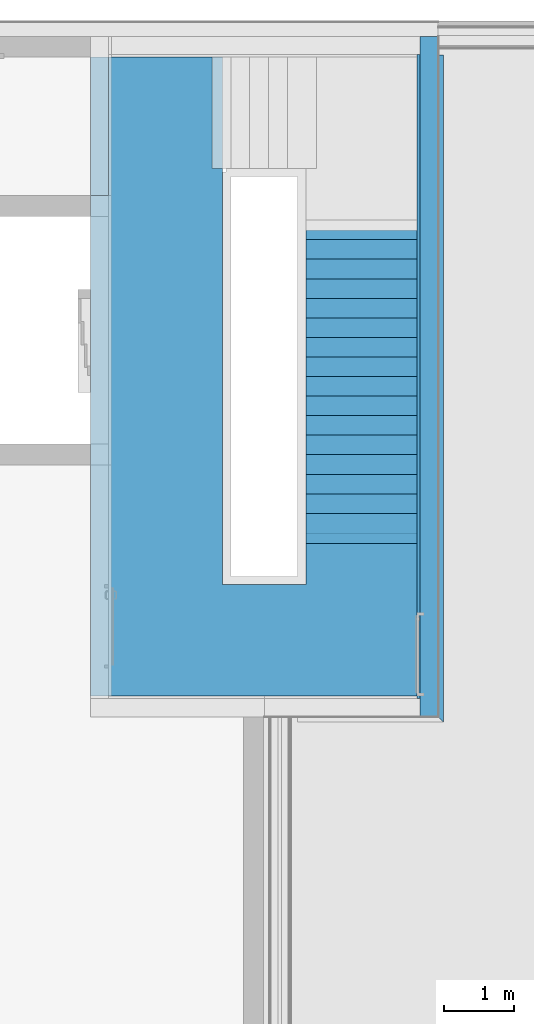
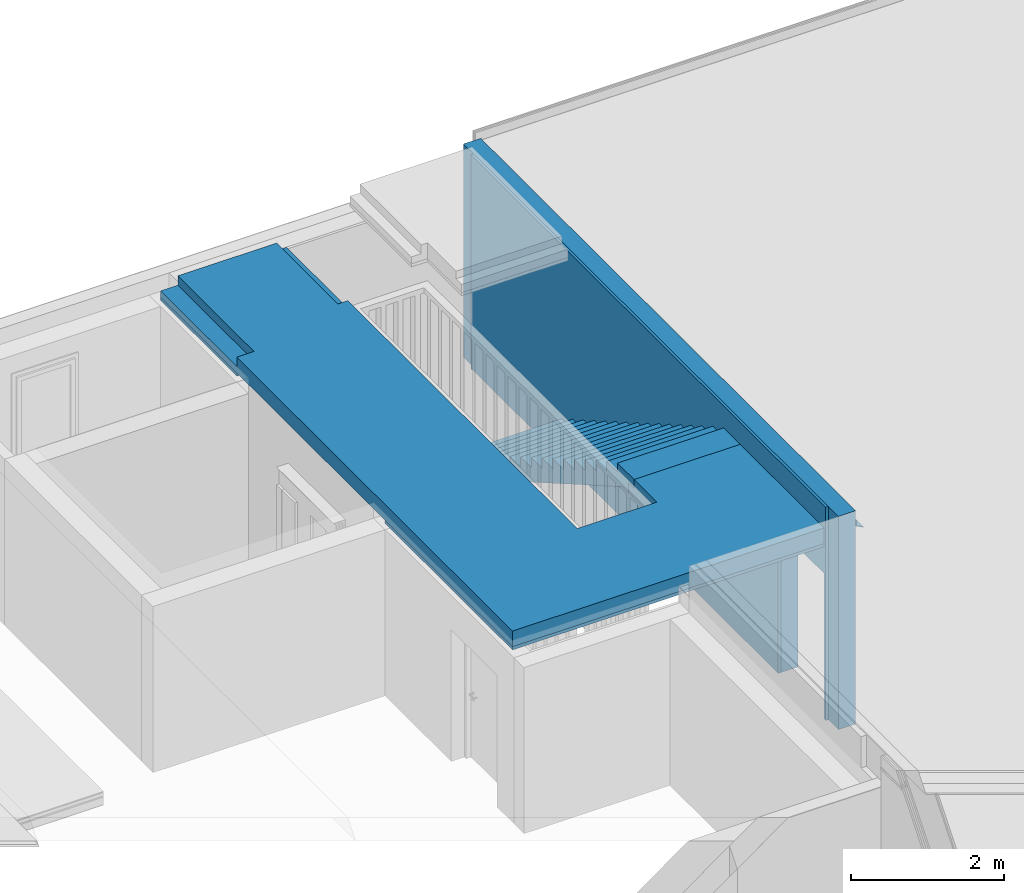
# One storey, part 15 of 20: 5 building element parts, 1 discrete accessory, 1 opening, 3 elements without a shape of their own.
"""IFC4 building model written with IfcOpenShell, lengths in millimetres."""

from ifc_helpers import new_model, entity, si_unit, converted_unit, derived_unit, direction, frame, origin_with_axes, place, context, subcontext, project, spatial, polygons, material, constituent, constituent_set, type_object, element, aggregate, save


model = new_model("IFC4")

# Units and contexts
model_context = context("Model", 3, precision=0.01, world=origin_with_axes(), true_north=direction((0.0, 1.0)))
body_context = subcontext(model_context, "Body", "Model", "MODEL_VIEW")
ifc_project = project(units=[si_unit("LENGTHUNIT", "METRE", prefix="MILLI"), si_unit("AREAUNIT", "SQUARE_METRE"), si_unit("VOLUMEUNIT", "CUBIC_METRE"), converted_unit("PLANEANGLEUNIT", "DEGREE", entity("IfcPlaneAngleMeasure", 0.0174532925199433), si_unit("PLANEANGLEUNIT", "RADIAN"), dimensions=[0, 0, 0, 0, 0, 0, 0]), converted_unit("TIMEUNIT", "Year", entity("IfcTimeMeasure", 31557600.0), si_unit("TIMEUNIT", "SECOND"), dimensions=[0, 0, 1, 0, 0, 0, 0]), si_unit("MASSUNIT", "GRAM", prefix="KILO"), si_unit("THERMODYNAMICTEMPERATUREUNIT", "DEGREE_CELSIUS"), si_unit("LUMINOUSINTENSITYUNIT", "LUMEN"), si_unit("ENERGYUNIT", "JOULE", prefix="MEGA"), derived_unit("THERMALCONDUCTANCEUNIT", [(si_unit("POWERUNIT", "WATT"), 1), (si_unit("LENGTHUNIT", "METRE"), -1), (si_unit("THERMODYNAMICTEMPERATUREUNIT", "KELVIN"), -1)]), derived_unit("SPECIFICHEATCAPACITYUNIT", [(si_unit("ENERGYUNIT", "JOULE"), 1), (si_unit("MASSUNIT", "GRAM", prefix="KILO"), -1), (si_unit("THERMODYNAMICTEMPERATUREUNIT", "KELVIN"), -1)]), derived_unit("MASSDENSITYUNIT", [(si_unit("MASSUNIT", "GRAM", prefix="KILO"), 1), (si_unit("VOLUMEUNIT", "CUBIC_METRE"), -1)])], contexts=[model_context])

# Site, building, storey
site_placement = place(None, origin_with_axes())
site = spatial("IfcSite", under=ifc_project, at=site_placement, Name="Gelände", CompositionType="ELEMENT")
building_placement = place(site_placement, origin_with_axes())
building = spatial("IfcBuilding", under=site, at=building_placement, Name="Gebäude", CompositionType="ELEMENT")
storey_placement = place(building_placement, frame((0.0, 0.0, 5.198845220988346e-05), z_axis=(0.0, 0.0, 1.0), x_axis=(1.0, 0.0, 0.0)))
storey = spatial("IfcBuildingStorey", under=building, at=storey_placement, Name="EG", CompositionType="ELEMENT", Elevation=0.0)

# Discrete accessory
ifc_material_1 = material(Name="Stahl")
ifc_constituent = constituent(ifc_material_1, Name="Stahl")
ifc_constituent_set = constituent_set(constituents=[ifc_constituent], Name="Träger Typ 01- L90X75X9")
discrete_accessory_type = type_object("IfcDiscreteAccessoryType", Name="Träger Typ 01- L90X75X9 75 x 90", PredefinedType="NOTDEFINED")
discrete_accessory_placement = place(storey_placement, frame((20428.9974447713, 37468.59728131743, 3161.999948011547), z_axis=(0.0, 0.0, 1.0), x_axis=(-1.0, 0.0, 0.0)))
element("IfcDiscreteAccessory", 1, at=discrete_accessory_placement, inside=storey, type_object=discrete_accessory_type, material=ifc_constituent_set, Name="Unterzug-026", PredefinedType="NOTDEFINED", context=body_context, shape_type="Tessellation", body=[
    polygons([(0.0, 0.0, 80.99999999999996), (0.0, 9520.99999999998, 80.99999999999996), (-9.000000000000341, 9529.99999999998, 80.99999999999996), (-9.000000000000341, 0.0, 80.99999999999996), (0.0, 0.0, -8.999999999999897), (0.0, 9520.99999999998, -8.999999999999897), (-75.00000000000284, 9595.999999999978, -8.999999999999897), (-75.00000000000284, 9595.999999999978, 0.0), (-9.000000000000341, 9529.99999999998, 0.0), (-9.000000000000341, 0.0, 0.0), (-74.99999999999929, 0.0, 0.0), (-74.99999999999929, 0.0, -8.999999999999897)], [[[1, 2, 3, 4]], [[5, 6, 2, 1]], [[3, 2, 6, 7, 8, 9]], [[4, 3, 9, 10]], [[5, 1, 4, 10, 11, 12]], [[12, 7, 6, 5]], [[11, 8, 7, 12]], [[10, 9, 8, 11]]], closed=True),
])

# Wall, opening, building element parts
wall_type = type_object("IfcWallType", Name="Innenwand Typ 10 310", PredefinedType="NOTDEFINED")
wall_placement = place(storey_placement, frame((20128.99744477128, 28247.59728131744, 0.0), z_axis=(0.0, 0.0, 1.0), x_axis=(0.0, 1.0, 0.0)))
wall = element("IfcWall", 2, at=wall_placement, inside=storey, type_object=wall_type, Name="Wand-014", PredefinedType="NOTDEFINED")
opening_placement = place(wall_placement, frame((599.9999999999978, 0.0, 220.0), z_axis=(0.0, 0.0, 1.0), x_axis=(1.0, 0.0, 0.0)))
element("IfcOpeningElement", 3, at=opening_placement, cuts=wall, Name="Tür-010", context=body_context, identifier="Reference", shape_type="Tessellation", body=[
    polygons([(-600.0000000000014, -310.9999999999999, 2100.0), (-600.0000000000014, -310.9999999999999, -220.0), (600.0000000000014, -310.9999999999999, -220.0), (600.0000000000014, -310.9999999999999, 2100.0), (-600.0000000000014, 1.000000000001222, 2100.0), (-600.0000000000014, 1.000000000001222, -220.0), (600.0000000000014, 1.000000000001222, -220.0), (600.0000000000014, 1.000000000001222, 2100.0)], [[[1, 2, 3, 4]], [[5, 6, 2, 1]], [[6, 7, 3, 2]], [[7, 8, 4, 3]], [[8, 5, 1, 4]], [[7, 6, 5, 8]]], closed=True),
])
ifc_material_2 = material(Name="Sichtbeton")
building_element_part_1_placement = place(wall_placement, origin_with_axes())
building_element_part_1 = element("IfcBuildingElementPart", 4, at=building_element_part_1_placement, material=ifc_material_2, Name="Sichtbeton", PredefinedType="NOTDEFINED", context=body_context, shape_type="Tessellation", body=[
    polygons([(0.0, -39.99999999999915, 219.9999480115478), (0.0, -39.99999999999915, 2320.0), (1199.999999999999, -39.99999999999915, 2320.0), (1199.999999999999, -39.99999999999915, 219.9999480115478), (1199.999999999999, -39.99999999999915, -5.198845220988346e-05), (9229.999999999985, -39.99999999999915, 0.0), (9229.999999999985, -39.99999999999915, 3399.999948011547), (-39.99999999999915, -39.99999999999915, 3399.999948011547), (-39.99999999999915, -39.99999999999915, 0.0), (0.0, -39.99999999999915, -5.198845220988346e-05), (0.0, 7.04625691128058e-06, 219.9999480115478), (0.0, 0.0, 2320.0), (1199.999999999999, 0.0, 2320.0), (1199.999999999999, 7.046253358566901e-06, 219.9999480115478), (1199.999999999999, 7.046253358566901e-06, -5.198845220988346e-05), (9229.999999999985, 0.0, 0.0), (9229.999999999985, 0.0, 3399.999948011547), (-39.99999999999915, 0.0, 3399.999948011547), (-39.99999999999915, 0.0, 0.0), (0.0, 7.04625691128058e-06, -5.198845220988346e-05)], [[[1, 2, 3, 4, 5, 6, 7, 8, 9, 10]], [[2, 1, 11, 12]], [[3, 2, 12, 13]], [[4, 3, 13, 14]], [[4, 14, 15, 5]], [[5, 15, 16, 6]], [[16, 17, 7, 6]], [[17, 18, 8, 7]], [[9, 8, 18, 19]], [[20, 10, 9, 19]], [[11, 1, 10, 20]], [[12, 11, 20, 19, 18, 17, 16, 15, 14, 13]]], closed=True),
])
ifc_material_3 = material(Name="Beton bewehrt")
building_element_part_2_placement = place(wall_placement, origin_with_axes())
building_element_part_2 = element("IfcBuildingElementPart", 5, at=building_element_part_2_placement, material=ifc_material_3, Name="Beton bewehrt", PredefinedType="NOTDEFINED", context=body_context, shape_type="Tessellation", body=[
    polygons([(0.0, -300.0000000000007, 219.9999480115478), (0.0, -300.0000000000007, 2320.0), (1199.999999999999, -300.0000000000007, 2320.0), (1199.999999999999, -300.0000000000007, 219.9999480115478), (1199.999999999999, -300.0000000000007, -5.198845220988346e-05), (9489.999999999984, -300.0000000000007, 0.0), (9489.999999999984, -300.0000000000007, 3399.999948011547), (-300.0000000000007, -300.0000000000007, 3399.999948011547), (-300.0000000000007, -300.0000000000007, 0.0), (0.0, -300.0000000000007, -5.198845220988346e-05), (0.0, -39.99999999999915, 219.9999480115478), (0.0, -39.99999999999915, 2320.0), (1199.999999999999, -39.99999999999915, 2320.0), (1199.999999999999, -39.99999999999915, 219.9999480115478), (1199.999999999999, -39.99999999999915, -5.198845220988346e-05), (9489.999999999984, -39.99999999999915, 0.0), (9489.999999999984, -39.99999999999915, 3399.999948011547), (-300.0000000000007, -39.99999999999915, 3399.999948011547), (-300.0000000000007, -39.99999999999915, 0.0), (0.0, -39.99999999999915, -5.198845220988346e-05)], [[[1, 2, 3, 4, 5, 6, 7, 8, 9, 10]], [[2, 1, 11, 12]], [[3, 2, 12, 13]], [[4, 3, 13, 14]], [[4, 14, 15, 5]], [[5, 15, 16, 6]], [[6, 16, 17, 7]], [[17, 18, 8, 7]], [[9, 8, 18, 19]], [[20, 10, 9, 19]], [[11, 1, 10, 20]], [[12, 11, 20, 19, 18, 17, 16, 15, 14, 13]]], closed=True),
])
aggregate(wall, [building_element_part_1, building_element_part_2])

# Stair, building element part
stair_type = type_object("IfcStairType", Name="Treppentyp", PredefinedType="NOTDEFINED")
stair_placement = place(storey_placement, frame((20128.99743772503, 35092.59728131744, 639.9999999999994), z_axis=(0.0, 0.0, 1.0), x_axis=(1.0, 0.0, 0.0)))
stair = element("IfcStair", 6, at=stair_placement, inside=storey, type_object=stair_type, Name="Treppe-001", PredefinedType="NOTDEFINED")
building_element_part_3_placement = place(stair_placement, origin_with_axes())
building_element_part_3 = element("IfcBuildingElementPart", 7, at=building_element_part_3_placement, material=ifc_material_3, Name="Beton bewehrt", PredefinedType="NOTDEFINED", context=body_context, shape_type="Tessellation", body=[
    polygons([(0.0, -4500.000000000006, 2269.999948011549), (0.0, -4500.000000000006, 2109.999948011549), (0.0, -4345.147909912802, 2109.999948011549), (0.0, -4312.500000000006, 2091.194752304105), (0.0, -4218.750000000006, 2037.194753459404), (0.0, -4125.000000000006, 1983.194754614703), (0.0, -4031.250000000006, 1929.194755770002), (0.0, -3937.500000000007, 1875.194756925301), (0.0, -3843.750000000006, 1821.1947580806), (0.0, -3750.000000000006, 1767.194759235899), (0.0, -3656.250000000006, 1713.194760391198), (0.0, -3562.500000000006, 1659.194761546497), (0.0, -3468.750000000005, 1605.194762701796), (0.0, -3375.000000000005, 1551.194763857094), (0.0, -3281.250000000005, 1497.194765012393), (0.0, -3187.500000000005, 1443.194766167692), (0.0, -3093.750000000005, 1389.194767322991), (0.0, -3000.000000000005, 1335.19476847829), (0.0, -2906.250000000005, 1281.194769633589), (0.0, -2812.500000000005, 1227.194770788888), (0.0, -2718.750000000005, 1173.194771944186), (0.0, -2625.000000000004, 1119.194773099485), (0.0, -2531.250000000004, 1065.194774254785), (0.0, -2437.500000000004, 1011.194775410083), (0.0, -2343.750000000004, 957.1947765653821), (0.0, -2250.000000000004, 903.1947777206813), (0.0, -2156.250000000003, 849.1947788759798), (0.0, -2062.500000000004, 795.194780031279), (0.0, -1968.750000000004, 741.1947811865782), (0.0, -1875.000000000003, 687.1947823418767), (0.0, -1781.250000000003, 633.1947834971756), (0.0, -1687.500000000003, 579.1947846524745), (0.0, -1593.750000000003, 525.1947858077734), (0.0, -1500.000000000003, 471.1947869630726), (0.0, -1406.250000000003, 417.1947881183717), (0.0, -1312.500000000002, 363.19478927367), (0.0, -1218.750000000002, 309.1947904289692), (0.0, -1125.000000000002, 255.1947915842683), (0.0, -1031.250000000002, 201.194792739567), (0.0, -937.5000000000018, 147.1947938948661), (0.0, -843.7500000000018, 93.19479505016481), (0.0, -750.0000000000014, 39.19479620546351), (0.0, -656.2500000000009, -14.80520263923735), (0.0, -562.5000000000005, -68.80520148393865), (0.0, -468.7500000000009, -122.8052003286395), (0.0, -375.0000000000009, -176.8051991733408), (0.0, -281.2500000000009, -230.8051980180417), (0.0, -187.5000000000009, -284.8051968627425), (0.0, -161.1201328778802, -300.0000000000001), (0.0, -149.9999999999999, -300.0000000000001), (0.0, -149.9999999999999, -120.0000000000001), (0.0, 0.0, -120.0000000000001), (0.0, 0.0, 0.0), (0.0, -281.2500000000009, 0.0), (0.0, -281.2500000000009, 161.999996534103), (0.0, -562.5000000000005, 161.999996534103), (0.0, -562.5000000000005, 323.9999930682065), (0.0, -843.7500000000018, 323.9999930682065), (0.0, -843.7500000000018, 485.9999896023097), (0.0, -1125.000000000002, 485.9999896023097), (0.0, -1125.000000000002, 647.999986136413), (0.0, -1406.250000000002, 647.999986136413), (0.0, -1406.250000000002, 809.9999826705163), (0.0, -1687.500000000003, 809.9999826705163), (0.0, -1687.500000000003, 971.9999792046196), (0.0, -1968.750000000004, 971.9999792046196), (0.0, -1968.750000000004, 1133.999975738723), (0.0, -2250.000000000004, 1133.999975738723), (0.0, -2250.000000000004, 1295.999972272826), (0.0, -2531.250000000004, 1295.999972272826), (0.0, -2531.250000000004, 1457.999968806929), (0.0, -2812.500000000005, 1457.999968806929), (0.0, -2812.500000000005, 1619.999965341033), (0.0, -3093.750000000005, 1619.999965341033), (0.0, -3093.750000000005, 1781.999961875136), (0.0, -3375.000000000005, 1781.999961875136), (0.0, -3375.000000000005, 1943.999958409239), (0.0, -3656.250000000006, 1943.999958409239), (0.0, -3656.250000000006, 2105.999954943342), (0.0, -3937.500000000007, 2105.999954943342), (0.0, -3937.500000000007, 2267.999951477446), (0.0, -4218.750000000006, 2267.999951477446), (0.0, -4218.750000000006, 2409.999948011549), (0.0, -4650.000000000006, 2409.999948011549), (0.0, -4650.000000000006, 2269.999948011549), (-1600.0, -4500.000000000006, 2269.999948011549), (-1600.0, -4500.000000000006, 2109.999948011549), (-1600.0, -4345.147909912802, 2109.999948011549), (-1600.0, -4312.500000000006, 2091.194752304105), (-1600.0, -4218.750000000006, 2037.194753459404), (-1600.0, -4125.000000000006, 1983.194754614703), (-1600.0, -4031.250000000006, 1929.194755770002), (-1600.0, -3937.500000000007, 1875.194756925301), (-1600.0, -3843.750000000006, 1821.1947580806), (-1600.0, -3750.000000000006, 1767.194759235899), (-1600.0, -3656.250000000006, 1713.194760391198), (-1600.0, -3562.500000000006, 1659.194761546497), (-1600.0, -3468.750000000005, 1605.194762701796), (-1600.0, -3375.000000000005, 1551.194763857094), (-1600.0, -3281.250000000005, 1497.194765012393), (-1600.0, -3187.500000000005, 1443.194766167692), (-1600.0, -3093.750000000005, 1389.194767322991), (-1600.0, -3000.000000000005, 1335.19476847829), (-1600.0, -2906.250000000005, 1281.194769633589), (-1600.0, -2812.500000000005, 1227.194770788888), (-1600.0, -2718.750000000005, 1173.194771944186), (-1600.0, -2625.000000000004, 1119.194773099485), (-1600.0, -2531.250000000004, 1065.194774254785), (-1600.0, -2437.500000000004, 1011.194775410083), (-1600.0, -2343.750000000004, 957.1947765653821), (-1600.0, -2250.000000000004, 903.1947777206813), (-1600.0, -2156.250000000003, 849.1947788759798), (-1600.0, -2062.500000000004, 795.194780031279), (-1600.0, -1968.750000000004, 741.1947811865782), (-1600.0, -1875.000000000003, 687.1947823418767), (-1600.0, -1781.250000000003, 633.1947834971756), (-1600.0, -1687.500000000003, 579.1947846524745), (-1600.0, -1593.750000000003, 525.1947858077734), (-1600.0, -1500.000000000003, 471.1947869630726), (-1600.0, -1406.250000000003, 417.1947881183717), (-1600.0, -1312.500000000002, 363.19478927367), (-1600.0, -1218.750000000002, 309.1947904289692), (-1600.0, -1125.000000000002, 255.1947915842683), (-1600.0, -1031.250000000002, 201.194792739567), (-1600.0, -937.5000000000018, 147.1947938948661), (-1600.0, -843.7500000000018, 93.19479505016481), (-1600.0, -750.0000000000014, 39.19479620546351), (-1600.0, -656.2500000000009, -14.80520263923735), (-1600.0, -562.5000000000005, -68.80520148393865), (-1600.0, -468.7500000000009, -122.8052003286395), (-1600.0, -375.0000000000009, -176.8051991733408), (-1600.0, -281.2500000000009, -230.8051980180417), (-1600.0, -187.5000000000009, -284.8051968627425), (-1600.0, -161.1201328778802, -300.0000000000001), (-1600.0, -149.9999999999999, -300.0000000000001), (-1600.0, -149.9999999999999, -120.0000000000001), (-1600.0, 0.0, -120.0000000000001), (-1600.0, 0.0, 0.0), (-1600.0, -281.2500000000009, 0.0), (-1600.0, -281.2500000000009, 161.999996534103), (-1600.0, -562.5000000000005, 161.999996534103), (-1600.0, -562.5000000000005, 323.9999930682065), (-1600.0, -843.7500000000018, 323.9999930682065), (-1600.0, -843.7500000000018, 485.9999896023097), (-1600.0, -1125.000000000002, 485.9999896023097), (-1600.0, -1125.000000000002, 647.999986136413), (-1600.0, -1406.250000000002, 647.999986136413), (-1600.0, -1406.250000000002, 809.9999826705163), (-1600.0, -1687.500000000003, 809.9999826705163), (-1600.0, -1687.500000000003, 971.9999792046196), (-1600.0, -1968.750000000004, 971.9999792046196), (-1600.0, -1968.750000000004, 1133.999975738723), (-1600.0, -2250.000000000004, 1133.999975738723), (-1600.0, -2250.000000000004, 1295.999972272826), (-1600.0, -2531.250000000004, 1295.999972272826), (-1600.0, -2531.250000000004, 1457.999968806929), (-1600.0, -2812.500000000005, 1457.999968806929), (-1600.0, -2812.500000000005, 1619.999965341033), (-1600.0, -3093.750000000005, 1619.999965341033), (-1600.0, -3093.750000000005, 1781.999961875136), (-1600.0, -3375.000000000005, 1781.999961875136), (-1600.0, -3375.000000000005, 1943.999958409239), (-1600.0, -3656.250000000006, 1943.999958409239), (-1600.0, -3656.250000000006, 2105.999954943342), (-1600.0, -3937.500000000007, 2105.999954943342), (-1600.0, -3937.500000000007, 2267.999951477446), (-1600.0, -4218.750000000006, 2267.999951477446), (-1600.0, -4218.750000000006, 2409.999948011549), (-1600.0, -4650.000000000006, 2409.999948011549), (-1600.0, -4650.000000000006, 2269.999948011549)], [[[1, 2, 3, 4, 5, 6, 7, 8, 9, 10, 11, 12, 13, 14, 15, 16, 17, 18, 19, 20, 21, 22, 23, 24, 25, 26, 27, 28, 29, 30, 31, 32, 33, 34, 35, 36, 37, 38, 39, 40, 41, 42, 43, 44, 45, 46, 47, 48, 49, 50, 51, 52, 53, 54, 55, 56, 57, 58, 59, 60, 61, 62, 63, 64, 65, 66, 67, 68, 69, 70, 71, 72, 73, 74, 75, 76, 77, 78, 79, 80, 81, 82, 83, 84, 85]], [[2, 1, 86, 87]], [[2, 87, 88, 3]], [[88, 89, 4, 3]], [[90, 5, 4, 89]], [[91, 6, 5, 90]], [[92, 7, 6, 91]], [[93, 8, 7, 92]], [[94, 9, 8, 93]], [[95, 10, 9, 94]], [[96, 11, 10, 95]], [[97, 12, 11, 96]], [[98, 13, 12, 97]], [[99, 14, 13, 98]], [[100, 15, 14, 99]], [[101, 16, 15, 100]], [[102, 17, 16, 101]], [[103, 18, 17, 102]], [[104, 19, 18, 103]], [[105, 20, 19, 104]], [[106, 21, 20, 105]], [[107, 22, 21, 106]], [[108, 23, 22, 107]], [[109, 24, 23, 108]], [[110, 25, 24, 109]], [[111, 26, 25, 110]], [[112, 27, 26, 111]], [[113, 28, 27, 112]], [[114, 29, 28, 113]], [[115, 30, 29, 114]], [[116, 31, 30, 115]], [[117, 32, 31, 116]], [[118, 33, 32, 117]], [[119, 34, 33, 118]], [[120, 35, 34, 119]], [[121, 36, 35, 120]], [[122, 37, 36, 121]], [[123, 38, 37, 122]], [[124, 39, 38, 123]], [[125, 40, 39, 124]], [[126, 41, 40, 125]], [[127, 42, 41, 126]], [[128, 43, 42, 127]], [[129, 44, 43, 128]], [[130, 45, 44, 129]], [[131, 46, 45, 130]], [[132, 47, 46, 131]], [[133, 48, 47, 132]], [[134, 49, 48, 133]], [[135, 50, 49, 134]], [[51, 50, 135, 136]], [[137, 52, 51, 136]], [[52, 137, 138, 53]], [[139, 54, 53, 138]], [[54, 139, 140, 55]], [[141, 56, 55, 140]], [[56, 141, 142, 57]], [[143, 58, 57, 142]], [[58, 143, 144, 59]], [[145, 60, 59, 144]], [[60, 145, 146, 61]], [[147, 62, 61, 146]], [[62, 147, 148, 63]], [[149, 64, 63, 148]], [[64, 149, 150, 65]], [[151, 66, 65, 150]], [[66, 151, 152, 67]], [[153, 68, 67, 152]], [[68, 153, 154, 69]], [[155, 70, 69, 154]], [[70, 155, 156, 71]], [[157, 72, 71, 156]], [[72, 157, 158, 73]], [[159, 74, 73, 158]], [[74, 159, 160, 75]], [[161, 76, 75, 160]], [[76, 161, 162, 77]], [[163, 78, 77, 162]], [[78, 163, 164, 79]], [[165, 80, 79, 164]], [[80, 165, 166, 81]], [[167, 82, 81, 166]], [[167, 168, 83, 82]], [[83, 168, 169, 84]], [[170, 85, 84, 169]], [[1, 85, 170, 86]], [[86, 170, 169, 168, 167, 166, 165, 164, 163, 162, 161, 160, 159, 158, 157, 156, 155, 154, 153, 152, 151, 150, 149, 148, 147, 146, 145, 144, 143, 142, 141, 140, 139, 138, 137, 136, 135, 134, 133, 132, 131, 130, 129, 128, 127, 126, 125, 124, 123, 122, 121, 120, 119, 118, 117, 116, 115, 114, 113, 112, 111, 110, 109, 108, 107, 106, 105, 104, 103, 102, 101, 100, 99, 98, 97, 96, 95, 94, 93, 92, 91, 90, 89, 88, 87]]], closed=True),
])
aggregate(stair, [building_element_part_3])

# Plate, building element parts
plate_type = type_object("IfcPlateType", Name="Podest Typ 01 300", PredefinedType="NOTDEFINED")
plate_placement = place(storey_placement, frame((15428.99744477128, 37437.59728330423, 3049.999948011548), z_axis=(0.0, 0.0, 1.0), x_axis=(1.0, 0.0, 0.0)))
plate = element("IfcPlate", 8, at=plate_placement, inside=storey, type_object=plate_type, Name="Deckennr.-073", PredefinedType="NOTDEFINED")
building_element_part_4_placement = place(plate_placement, origin_with_axes())
building_element_part_4 = element("IfcBuildingElementPart", 9, at=building_element_part_4_placement, material=ifc_material_3, Name="Beton bewehrt", PredefinedType="NOTDEFINED", context=body_context, shape_type="Tessellation", body=[
    polygons([(1750.000000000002, 0.0, 0.0), (1750.000000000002, 0.0, -119.9999999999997), (1900.0, 0.0, -119.9999999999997), (1900.0, 0.0, -250.0), (0.0, 0.0, -250.0), (0.0, 0.0, -149.9999999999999), (260.0000000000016, 0.0, -149.9999999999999), (260.0000000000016, 0.0, 0.0), (1750.000000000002, -1600.000000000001, 0.0), (1750.000000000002, -1600.000000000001, -119.9999999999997), (1900.0, -1600.000000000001, -119.9999999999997), (1900.0, -1600.000000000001, 0.0), (1900.0, -7590.000001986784, 0.0), (1900.0, -7590.000001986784, -250.0), (4699.999992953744, -6845.000001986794, -250.0), (4699.999992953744, -9190.000001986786, -250.0), (0.0, -9190.000001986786, -250.0), (3099.999992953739, -7590.000001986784, -250.0), (3099.999992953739, -6845.000001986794, -250.0), (0.0, -9190.000001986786, 0.0), (0.0, -1990.0000019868, 0.0), (0.0, -1990.0000019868, -149.9999999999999), (259.9999999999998, -1990.0000019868, -149.9999999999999), (259.9999999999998, -1990.0000019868, 0.0), (4699.999992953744, -9190.000001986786, 0.0), (4699.999992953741, -6995.000001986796, 0.0), (3099.999992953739, -6995.000001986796, 0.0), (3099.999992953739, -7590.000001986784, 0.0), (4699.999992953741, -6845.000001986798, -139.9999999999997), (4699.999992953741, -6995.000001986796, -139.9999999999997), (3099.999992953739, -6995.000001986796, -139.9999999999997), (3099.999992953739, -6845.000001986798, -139.9999999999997)], [[[1, 2, 3, 4, 5, 6, 7, 8]], [[2, 1, 9, 10]], [[11, 3, 2, 10]], [[11, 12, 13, 14, 4, 3]], [[15, 16, 17, 5, 4, 14, 18, 19]], [[20, 21, 22, 6, 5, 17]], [[22, 23, 7, 6]], [[7, 23, 24, 8]], [[9, 1, 8, 24, 21, 20, 25, 26, 27, 28, 13, 12]], [[9, 12, 11, 10]], [[13, 28, 18, 14]], [[29, 30, 26, 25, 16, 15]], [[25, 20, 17, 16]], [[27, 31, 32, 19, 18, 28]], [[19, 32, 29, 15]], [[23, 22, 21, 24]], [[31, 27, 26, 30]], [[31, 30, 29, 32]]], closed=True),
])
building_element_part_5_placement = place(plate_placement, origin_with_axes())
building_element_part_5 = element("IfcBuildingElementPart", 10, at=building_element_part_5_placement, material=ifc_material_2, Name="Sichtbeton", PredefinedType="NOTDEFINED", context=body_context, shape_type="Tessellation", body=[
    polygons([(260.0000000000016, -1990.0000019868, -250.0), (259.9999999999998, -5865.000001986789, -250.0), (0.0, -5865.000001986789, -250.0), (0.0, -9190.000001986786, -250.0), (4699.999992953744, -9190.000001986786, -250.0), (4699.999992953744, -6845.000001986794, -250.0), (3099.999992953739, -6845.000001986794, -250.0), (3099.999992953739, -7590.000001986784, -250.0), (1900.0, -7590.000001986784, -250.0), (1900.0, 0.0, -250.0), (0.0, 0.0, -250.0), (0.0, -1990.0000019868, -250.0), (259.9999999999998, -5865.000001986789, -299.9999999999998), (260.0000000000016, -1990.0000019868, -299.9999999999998), (0.0, -5865.000001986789, -299.9999999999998), (0.0, -9190.000001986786, -299.9999999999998), (4699.999992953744, -9190.000001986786, -299.9999999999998), (4699.999992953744, -6845.000001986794, -299.9999999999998), (3099.999992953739, -6845.000001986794, -299.9999999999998), (3099.999992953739, -7590.000001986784, -299.9999999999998), (1900.0, -7590.000001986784, -299.9999999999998), (1900.0, 0.0, -299.9999999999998), (0.0, 0.0, -299.9999999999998), (0.0, -1990.0000019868, -299.9999999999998)], [[[1, 2, 3, 4, 5, 6, 7, 8, 9, 10, 11, 12]], [[13, 2, 1, 14]], [[15, 3, 2, 13]], [[4, 3, 15, 16]], [[5, 4, 16, 17]], [[6, 5, 17, 18]], [[7, 6, 18, 19]], [[8, 7, 19, 20]], [[9, 8, 20, 21]], [[10, 9, 21, 22]], [[11, 10, 22, 23]], [[23, 24, 12, 11]], [[14, 1, 12, 24]], [[13, 14, 24, 23, 22, 21, 20, 19, 18, 17, 16, 15]]], closed=True),
])
aggregate(plate, [building_element_part_4, building_element_part_5])

save(model, "model.ifc")
